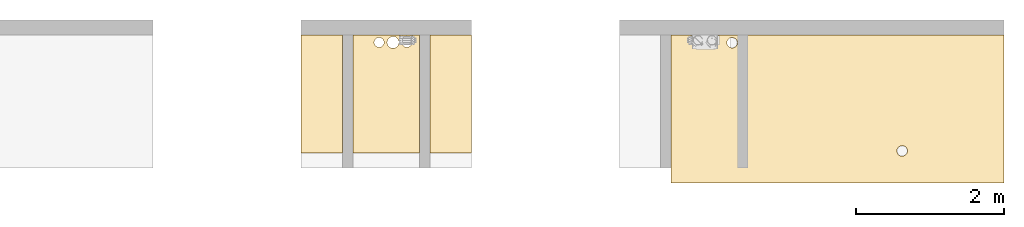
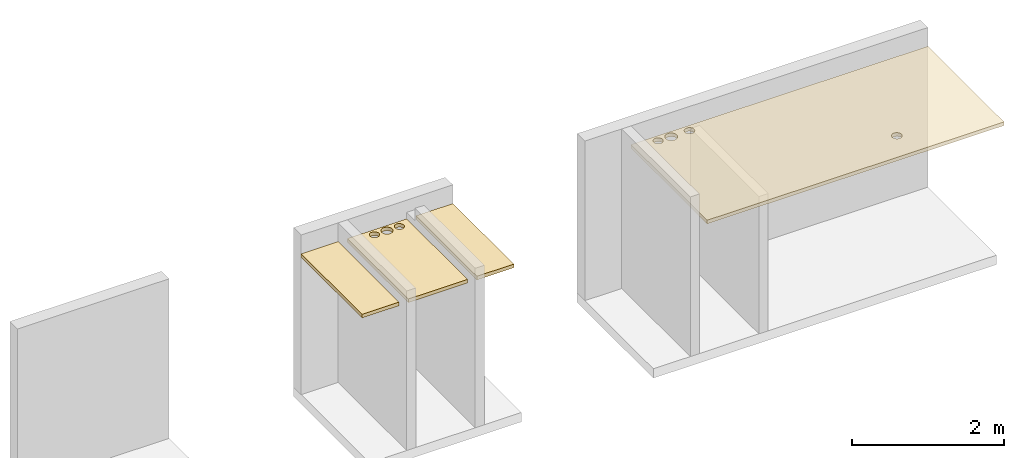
# One storey, part 3 of 3: 4 coverings.
"""IFC4 building model written with IfcOpenShell, lengths in millimetres."""

import ifcopenshell
import ifcopenshell.guid

model = None  # the IFC model being written
_history = None  # IfcOwnerHistory: only IFC2X3 demands one
_inside = {}  # id of a spatial element -> (the spatial element, [elements in it])
_under = {}  # id of a project, library or spatial element -> (it, [spatial elements below it])
_declared = {}  # id of a project -> (the project, [libraries it declares])
_typed = {}  # id of a type object -> (the type object, [elements of that type])
_made_of = {}  # id of a material, layer set ... -> (it, [elements and type objects made of it])


def new_model(schema):
    """Start an empty IFC model of exactly this schema.

    Asked for "IFC4X3", IfcOpenShell would pick the latest addendum, in which some entities
    have other attributes; the version numbers below select the first issue.
    IFC2X3 requires an IfcOwnerHistory on every rooted entity: one is made here for all.
    """
    global model, _history
    if schema == "IFC4X3":
        model = ifcopenshell.file(schema_version=(4, 3, 0, 0))
    else:
        model = ifcopenshell.file(schema=schema)
    _inside.clear()
    _under.clear()
    _declared.clear()
    _typed.clear()
    _made_of.clear()
    _history = None
    if model.schema == "IFC2X3":
        org = make("IfcOrganization", Name="unknown")
        user = make(
            "IfcPersonAndOrganization",
            ThePerson=make("IfcPerson", FamilyName="unknown"),
            TheOrganization=org,
        )
        app = make(
            "IfcApplication",
            ApplicationDeveloper=org,
            Version="unknown",
            ApplicationFullName="unknown",
            ApplicationIdentifier="unknown",
        )
        _history = make(
            "IfcOwnerHistory",
            OwningUser=user,
            OwningApplication=app,
            ChangeAction="ADDED",
            CreationDate=0,
        )
    return model


def make(cls, **values):
    """One entity of the class cls with the attributes given. An attribute that is None is left unset."""
    return model.create_entity(
        cls, **{name: value for name, value in values.items() if value is not None}
    )


def entity(cls, *values):
    """Any entity or typed value of the class cls, its attributes in the order of the schema. None: left unset."""
    e = model.create_entity(cls)
    for i, value in enumerate(values):
        if value is not None:
            e[i] = value
    return e


def rooted(cls, **values):
    """An entity with a GlobalId (a new one), such as an element, a storey or a relation."""
    return make(cls, GlobalId=ifcopenshell.guid.new(), OwnerHistory=_history, **values)


def si_unit(unit_type, name, prefix=None):
    """IfcSIUnit, for example si_unit("LENGTHUNIT", "METRE", prefix="MILLI")."""
    return make("IfcSIUnit", UnitType=unit_type, Prefix=prefix, Name=name)


def converted_unit(unit_type, name, factor, base, dimensions=None, offset=None):
    """IfcConversionBasedUnit, such as the inch: factor (a typed value) times the base unit."""
    return make(
        "IfcConversionBasedUnit"
        if offset is None
        else "IfcConversionBasedUnitWithOffset",
        ConversionOffset=offset,
        Dimensions=None
        if dimensions is None
        else entity("IfcDimensionalExponents", *dimensions),
        UnitType=unit_type,
        Name=name,
        ConversionFactor=make(
            "IfcMeasureWithUnit", ValueComponent=factor, UnitComponent=base
        ),
    )


def derived_unit(unit_type, elements):
    """IfcDerivedUnit: a product of units, each with its exponent."""
    return make(
        "IfcDerivedUnit",
        Elements=[
            make("IfcDerivedUnitElement", Unit=unit, Exponent=power)
            for unit, power in elements
        ],
        UnitType=unit_type,
    )


def assignment(units):
    """IfcUnitAssignment: the units of a project."""
    return None if units is None else make("IfcUnitAssignment", Units=units)


def point(xyz):
    """IfcCartesianPoint."""
    return None if xyz is None else make("IfcCartesianPoint", Coordinates=xyz)


def direction(xyz):
    """IfcDirection."""
    return None if xyz is None else make("IfcDirection", DirectionRatios=xyz)


def frame(location, z_axis=None, x_axis=None):
    """IfcAxis2Placement3D, a coordinate frame: its origin and axes. An axis left out is left unset."""
    return make(
        "IfcAxis2Placement3D",
        Location=point(location),
        Axis=direction(z_axis),
        RefDirection=direction(x_axis),
    )


def origin():
    """The frame at (0, 0, 0) with its axes left unset."""
    return frame((0.0, 0.0, 0.0))


def place(relative_to, where):
    """IfcLocalPlacement: puts the frame where relative to a parent placement (None: the world)."""
    return make(
        "IfcLocalPlacement", PlacementRelTo=relative_to, RelativePlacement=where
    )


def context(
    kind, dimensions, precision=None, world=None, true_north=None, identifier=None
):
    """IfcGeometricRepresentationContext, for example the 3D "Model" context."""
    return make(
        "IfcGeometricRepresentationContext",
        ContextIdentifier=identifier,
        ContextType=kind,
        CoordinateSpaceDimension=dimensions,
        Precision=precision,
        WorldCoordinateSystem=world,
        TrueNorth=true_north,
    )


def subcontext(parent, identifier, kind, view, scale=None):
    """IfcGeometricRepresentationSubContext, for example "Body" below "Model"."""
    return make(
        "IfcGeometricRepresentationSubContext",
        ContextIdentifier=identifier,
        ContextType=kind,
        ParentContext=parent,
        TargetScale=scale,
        TargetView=view,
    )


def project(units=None, contexts=None):
    """IfcProject with its units and contexts."""
    return rooted(
        "IfcProject",
        Name="project",
        RepresentationContexts=contexts,
        UnitsInContext=assignment(units),
    )


def spatial(cls, under=None, at=None, **own):
    """A site, building, storey or space (cls), placed at a placement, below another one or the project."""
    s = rooted(cls, ObjectPlacement=at, **own)
    if under is not None:
        _under.setdefault(under.id(), (under, []))[1].append(s)
    return s


def point_list(points):
    """IfcCartesianPointList2D or 3D."""
    cls = (
        "IfcCartesianPointList2D" if len(points[0]) == 2 else "IfcCartesianPointList3D"
    )
    return make(cls, CoordList=points)


def indexed_curve(points, segments=None, self_intersect=None):
    """IfcIndexedPolyCurve: lines and arcs through numbered points (the first is 1)."""
    return make(
        "IfcIndexedPolyCurve",
        Points=point_list(points),
        Segments=segments,
        SelfIntersect=self_intersect,
    )


def outline(outer, holes=None, kind="AREA"):
    """IfcArbitraryClosedProfileDef: a profile drawn as a closed curve; with holes, ...WithVoids."""
    if holes is None:
        return make("IfcArbitraryClosedProfileDef", ProfileType=kind, OuterCurve=outer)
    return make(
        "IfcArbitraryProfileDefWithVoids",
        ProfileType=kind,
        OuterCurve=outer,
        InnerCurves=holes,
    )


def extrude(swept, where, along, depth):
    """IfcExtrudedAreaSolid: the profile swept, set in the frame where, extruded along a direction by depth."""
    return make(
        "IfcExtrudedAreaSolid",
        SweptArea=swept,
        Position=where,
        ExtrudedDirection=direction(along),
        Depth=depth,
    )


def shape(context_of_items, identifier, shape_type, items):
    """IfcShapeRepresentation: the items that make up one representation, for example the "Body"."""
    return make(
        "IfcShapeRepresentation",
        ContextOfItems=context_of_items,
        RepresentationIdentifier=identifier,
        RepresentationType=shape_type,
        Items=items,
    )


def material(Name=None, Category=None):
    """IfcMaterial."""
    return make("IfcMaterial", Name=Name, Category=Category)


def layer(
    of_material, thickness, ventilated=None, Name=None, Category=None, Priority=None
):
    """IfcMaterialLayer: one layer of a wall or slab, of a material (None: an air gap)."""
    return make(
        "IfcMaterialLayer",
        Material=of_material,
        LayerThickness=thickness,
        IsVentilated=ventilated,
        Name=Name,
        Category=Category,
        Priority=Priority,
    )


def layer_set(layers, Name=None):
    """IfcMaterialLayerSet."""
    return make("IfcMaterialLayerSet", MaterialLayers=layers, LayerSetName=Name)


def made_of(thing, what):
    """Note that an element or type object is made of a material, layer set ...; save() writes the relation."""
    if what is not None:
        _made_of.setdefault(what.id(), (what, []))[1].append(thing)
    return thing


def type_object(cls, material=None, **own):
    """A type object (cls), such as IfcWallType, which elements share."""
    return made_of(rooted(cls, **own), material)


def element(
    cls,
    number,
    at=None,
    inside=None,
    cuts=None,
    type_object=None,
    material=None,
    context=None,
    identifier="Body",
    shape_type=None,
    held_by="IfcProductDefinitionShape",
    body=None,
    shapes=None,
    **own,
):
    """One element of the class cls, such as IfcWall. Its Tag is "e" and its number.

    at: its placement. inside: the storey or other place that contains it. cuts: it is an
    opening in that element (IfcRelVoidsElement). A single representation is given by context,
    identifier, shape_type and body (its items); several are given by shapes. held_by: the class
    of the entity that holds the representations. save() writes the other relations.
    """
    e = rooted(cls, Tag="e%d" % number, ObjectPlacement=at, **own)
    if body is not None:
        shapes = [shape(context, identifier, shape_type, body)]
    if shapes is not None:
        e.Representation = make(held_by, Representations=shapes)
    if inside is not None:
        _inside.setdefault(inside.id(), (inside, []))[1].append(e)
    if cuts is not None:
        rooted(
            "IfcRelVoidsElement", RelatingBuildingElement=cuts, RelatedOpeningElement=e
        )
    if type_object is not None:
        _typed.setdefault(type_object.id(), (type_object, []))[1].append(e)
    return made_of(e, material)


def aggregate(whole, parts):
    """IfcRelAggregates: a whole, such as a stair, and the parts it consists of."""
    return rooted("IfcRelAggregates", RelatingObject=whole, RelatedObjects=parts)


def save(model, path):
    """Write the relations noted so far, then the file.

    IfcRelAggregates (storeys below a building ...), IfcRelContainedInSpatialStructure (elements
    in a storey), IfcRelDefinesByType, IfcRelAssociatesMaterial and IfcRelDeclares: one each for
    every whole, place, type object, material and project.
    """
    for whole, parts in _under.values():
        aggregate(whole, parts)
    for where, things in _inside.values():
        rooted(
            "IfcRelContainedInSpatialStructure",
            RelatedElements=things,
            RelatingStructure=where,
        )
    for kind, things in _typed.values():
        rooted("IfcRelDefinesByType", RelatedObjects=things, RelatingType=kind)
    for what, things in _made_of.values():
        rooted("IfcRelAssociatesMaterial", RelatedObjects=things, RelatingMaterial=what)
    for by, libraries in _declared.values():
        rooted("IfcRelDeclares", RelatingContext=by, RelatedDefinitions=libraries)
    model.write(path)


model = new_model("IFC4")

# Units and contexts
model_context = context("Model", 3, precision=0.01, world=origin(), true_north=direction((6.12303176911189e-17, 1.0)))
body_context = subcontext(model_context, "Body", "Model", "MODEL_VIEW")
ifc_project = project(units=[si_unit("LENGTHUNIT", "METRE", prefix="MILLI"), si_unit("AREAUNIT", "SQUARE_METRE"), si_unit("VOLUMEUNIT", "CUBIC_METRE"), converted_unit("PLANEANGLEUNIT", "DEGREE", entity("IfcRatioMeasure", 0.0174532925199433), si_unit("PLANEANGLEUNIT", "RADIAN"), dimensions=[0, 0, 0, 0, 0, 0, 0]), si_unit("MASSUNIT", "GRAM", prefix="KILO"), derived_unit("MASSDENSITYUNIT", [(si_unit("MASSUNIT", "GRAM", prefix="KILO"), 1), (si_unit("LENGTHUNIT", "METRE"), -3)]), si_unit("TIMEUNIT", "SECOND"), si_unit("FREQUENCYUNIT", "HERTZ"), si_unit("THERMODYNAMICTEMPERATUREUNIT", "DEGREE_CELSIUS"), derived_unit("THERMALTRANSMITTANCEUNIT", [(si_unit("MASSUNIT", "GRAM", prefix="KILO"), 1), (si_unit("THERMODYNAMICTEMPERATUREUNIT", "KELVIN"), -1), (si_unit("TIMEUNIT", "SECOND"), -3)]), derived_unit("VOLUMETRICFLOWRATEUNIT", [(si_unit("LENGTHUNIT", "METRE"), 3), (si_unit("TIMEUNIT", "SECOND"), -1)]), si_unit("ELECTRICCURRENTUNIT", "AMPERE"), si_unit("ELECTRICVOLTAGEUNIT", "VOLT"), si_unit("POWERUNIT", "WATT"), si_unit("FORCEUNIT", "NEWTON", prefix="KILO"), si_unit("ILLUMINANCEUNIT", "LUX"), si_unit("LUMINOUSFLUXUNIT", "LUMEN"), si_unit("LUMINOUSINTENSITYUNIT", "CANDELA"), derived_unit("USERDEFINED", [(si_unit("MASSUNIT", "GRAM", prefix="KILO"), -1), (si_unit("LENGTHUNIT", "METRE"), -2), (si_unit("TIMEUNIT", "SECOND"), 3), (si_unit("LUMINOUSFLUXUNIT", "LUMEN"), 1)]), derived_unit("LINEARVELOCITYUNIT", [(si_unit("LENGTHUNIT", "METRE"), 1), (si_unit("TIMEUNIT", "SECOND"), -1)]), si_unit("PRESSUREUNIT", "PASCAL"), derived_unit("USERDEFINED", [(si_unit("LENGTHUNIT", "METRE"), -2), (si_unit("MASSUNIT", "GRAM", prefix="KILO"), 1), (si_unit("TIMEUNIT", "SECOND"), -2)])], contexts=[model_context])

# Site, building, storey
site_placement = place(None, origin())
site = spatial("IfcSite", under=ifc_project, at=site_placement, Name="Default", CompositionType="ELEMENT")
building_placement = place(site_placement, origin())
building = spatial("IfcBuilding", under=site, at=building_placement, CompositionType="ELEMENT")
storey_placement = place(building_placement, frame((0.0, 0.0, 113.901971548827)))
storey = spatial("IfcBuildingStorey", under=building, at=storey_placement, Name="Level 1", CompositionType="ELEMENT", Elevation=113.901971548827)

# Coverings
ifc_material_1 = material(Name="Metal Stud Layer", Category="Materials")
ifc_layer_1 = layer(ifc_material_1, 45.0, Name="Metal Stud Layer", Category="Materials")
ifc_material_2 = material(Name="Gypsum Wall Board", Category="Materials")
ifc_layer_2 = layer(ifc_material_2, 12.0, Name="Gypsum Wall Board", Category="Materials")
ifc_layer_set_1 = layer_set([ifc_layer_1, ifc_layer_2], Name="Compound Ceiling:Plain")
covering_type_1 = type_object("IfcCoveringType", Name="Compound Ceiling:Plain", PredefinedType="CEILING")
covering_1_placement = place(storey_placement, origin())
element("IfcCovering", 1, at=covering_1_placement, inside=storey, type_object=covering_type_1, material=ifc_layer_set_1, Name="Compound Ceiling:Plain", ObjectType="Compound Ceiling:Plain", PredefinedType="CEILING", context=body_context, shape_type="SweptSolid", body=[
    extrude(outline(indexed_curve([(-2250.0, -1000.0), (2250.0, -1000.0), (2250.0, 1000.0), (-2250.0, 1000.0), (-2250.0, -1000.0)], self_intersect=False), holes=[indexed_curve([(1829.99999999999, -897.322167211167), (1833.27921340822, -876.618028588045), (1842.79586137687, -857.940555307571), (1857.61838809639, -843.118028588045), (1876.29586137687, -833.601380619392), (1896.99999999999, -830.322167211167), (1917.70413862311, -833.601380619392), (1936.38161190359, -843.118028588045), (1951.20413862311, -857.940555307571), (1960.72078659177, -876.618028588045), (1963.99999999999, -897.322167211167), (1960.72078659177, -918.026305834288), (1951.20413862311, -936.703779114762), (1936.38161190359, -951.526305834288), (1917.70413862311, -961.042953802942), (1896.99999999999, -964.322167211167), (1876.29586137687, -961.042953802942), (1857.6183880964, -951.526305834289), (1842.79586137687, -936.703779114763), (1833.27921340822, -918.026305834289), (1829.99999999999, -897.322167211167)], self_intersect=False), indexed_curve([(1617.99999999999, -892.322167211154), (1622.1601961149, -866.055722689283), (1634.23355547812, -842.360420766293), (1653.03825355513, -823.555722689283), (1676.73355547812, -811.482363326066), (1702.99999999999, -807.322167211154), (1729.26644452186, -811.482363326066), (1752.96174644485, -823.555722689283), (1771.76644452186, -842.360420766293), (1783.83980388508, -866.055722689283), (1787.99999999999, -892.322167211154), (1783.83980388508, -918.588611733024), (1771.76644452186, -942.283913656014), (1752.96174644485, -961.088611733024), (1729.26644452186, -973.161971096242), (1702.99999999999, -977.322167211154), (1676.73355547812, -973.161971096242), (1653.03825355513, -961.088611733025), (1634.23355547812, -942.283913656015), (1622.1601961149, -918.588611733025), (1617.99999999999, -892.322167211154)], self_intersect=False), indexed_curve([(1354.99999999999, -892.322167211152), (1358.42604385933, -870.690977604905), (1368.36881039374, -851.177199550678), (1383.85503233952, -835.690977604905), (1403.36881039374, -825.748211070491), (1424.99999999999, -822.322167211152), (1446.63118960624, -825.748211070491), (1466.14496766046, -835.690977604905), (1481.63118960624, -851.177199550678), (1491.57395614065, -870.690977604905), (1494.99999999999, -892.322167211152), (1491.57395614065, -913.953356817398), (1481.63118960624, -933.467134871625), (1466.14496766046, -948.953356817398), (1446.63118960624, -958.896123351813), (1424.99999999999, -962.322167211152), (1403.36881039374, -958.896123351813), (1383.85503233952, -948.953356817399), (1368.36881039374, -933.467134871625), (1358.42604385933, -913.953356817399), (1354.99999999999, -892.322167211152)], self_intersect=False), indexed_curve([(-944.999999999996, 570.000000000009), (-941.525012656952, 591.94020660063), (-931.440206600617, 611.732752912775), (-915.732752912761, 627.440206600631), (-895.940206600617, 637.525012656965), (-873.999999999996, 641.000000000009), (-852.059793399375, 637.525012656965), (-832.26724708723, 627.440206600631), (-816.559793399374, 611.732752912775), (-806.47498734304, 591.940206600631), (-802.999999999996, 570.00000000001), (-806.47498734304, 548.059793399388), (-816.559793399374, 528.267247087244), (-832.26724708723, 512.559793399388), (-852.059793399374, 502.474987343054), (-873.999999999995, 499.000000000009), (-895.940206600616, 502.474987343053), (-915.732752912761, 512.559793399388), (-931.440206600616, 528.267247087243), (-941.525012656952, 548.059793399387), (-944.999999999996, 570.000000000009)], self_intersect=False)]), frame((3965.11188853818, 2392.24351176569, 2200.0), z_axis=(0.0, 0.0, 1.0), x_axis=(-1.0, 0.0, 0.0)), (0.0, 0.0, 1.0), 57.0),
])
covering_type_2 = type_object("IfcCoveringType", Name="Compound Ceiling:Plain", PredefinedType="CEILING")
covering_2_placement = place(storey_placement, origin())
element("IfcCovering", 2, at=covering_2_placement, inside=storey, type_object=covering_type_2, material=ifc_layer_set_1, Name="Compound Ceiling:Plain", ObjectType="Compound Ceiling:Plain", PredefinedType="CEILING", context=body_context, shape_type="SweptSolid", body=[
    extrude(outline(indexed_curve([(-280.000000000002, -800.0), (280.000000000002, -800.0), (280.000000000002, 800.0), (-280.000000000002, 800.0), (-280.000000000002, -800.0)], self_intersect=False)), frame((-3004.88811146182, 2592.24351176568, 2200.0), z_axis=(0.0, 0.0, 1.0), x_axis=(-1.0, 0.0, 0.0)), (0.0, 0.0, 1.0), 57.0),
])
ifc_material_3 = material(Name="Glass, Clear Glazing", Category="Materials")
ifc_layer_3 = layer(ifc_material_3, 57.0, Name="Glass, Clear Glazing", Category="Materials")
ifc_layer_set_2 = layer_set([ifc_layer_3], Name="Compound Ceiling:Transparent")
covering_type_3 = type_object("IfcCoveringType", Name="Compound Ceiling:Transparent", PredefinedType="CEILING")
covering_3_placement = place(storey_placement, origin())
element("IfcCovering", 3, at=covering_3_placement, inside=storey, type_object=covering_type_3, material=ifc_layer_set_2, Name="Compound Ceiling:Transparent", ObjectType="Compound Ceiling:Transparent", PredefinedType="CEILING", context=body_context, shape_type="SweptSolid", body=[
    extrude(outline(indexed_curve([(-450.000000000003, -800.0), (450.000000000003, -800.0), (450.000000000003, 800.0), (-450.000000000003, 800.0), (-450.000000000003, -800.0)], self_intersect=False), holes=[indexed_curve([(-347.000000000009, -697.322167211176), (-343.720786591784, -676.618028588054), (-334.20413862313, -657.94055530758), (-319.381611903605, -643.118028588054), (-300.70413862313, -633.6013806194), (-280.000000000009, -630.322167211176), (-259.295861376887, -633.6013806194), (-240.618388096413, -643.118028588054), (-225.795861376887, -657.94055530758), (-216.279213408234, -676.618028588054), (-213.000000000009, -697.322167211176), (-216.279213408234, -718.026305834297), (-225.795861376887, -736.703779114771), (-240.618388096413, -751.526305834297), (-259.295861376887, -761.04295380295), (-280.000000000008, -764.322167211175), (-300.70413862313, -761.042953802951), (-319.381611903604, -751.526305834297), (-334.20413862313, -736.703779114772), (-343.720786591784, -718.026305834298), (-347.000000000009, -697.322167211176)], self_intersect=False), indexed_curve([(29.999999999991, -697.322167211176), (33.2792134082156, -676.618028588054), (42.7958613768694, -657.94055530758), (57.6183880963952, -643.118028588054), (76.2958613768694, -633.6013806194), (96.9999999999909, -630.322167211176), (117.704138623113, -633.6013806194), (136.381611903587, -643.118028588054), (151.204138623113, -657.94055530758), (160.720786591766, -676.618028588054), (163.999999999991, -697.322167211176), (160.720786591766, -718.026305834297), (151.204138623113, -736.703779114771), (136.381611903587, -751.526305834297), (117.704138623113, -761.04295380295), (96.9999999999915, -764.322167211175), (76.2958613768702, -761.042953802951), (57.6183880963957, -751.526305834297), (42.7958613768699, -736.703779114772), (33.2792134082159, -718.026305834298), (29.999999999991, -697.322167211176)], self_intersect=False), indexed_curve([(-172.000000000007, -697.322167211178), (-168.08452130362, -672.600807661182), (-156.721359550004, -650.29934702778), (-139.022820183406, -632.600807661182), (-116.721359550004, -621.237645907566), (-92.0000000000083, -617.322167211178), (-67.2786404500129, -621.237645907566), (-44.9771798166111, -632.600807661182), (-27.2786404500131, -650.29934702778), (-15.9154786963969, -672.600807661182), (-12.0000000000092, -697.322167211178), (-15.9154786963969, -722.043526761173), (-27.2786404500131, -744.344987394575), (-44.9771798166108, -762.043526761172), (-67.2786404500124, -773.406688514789), (-92.0000000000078, -777.322167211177), (-116.721359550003, -773.406688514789), (-139.022820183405, -762.043526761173), (-156.721359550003, -744.344987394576), (-168.08452130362, -722.043526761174), (-172.000000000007, -697.322167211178)], self_intersect=False)]), frame((-2134.88811146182, 2592.24351176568, 2200.0), z_axis=(0.0, 0.0, 1.0), x_axis=(-1.0, 0.0, 0.0)), (0.0, 0.0, 1.0), 57.0),
])
covering_type_4 = type_object("IfcCoveringType", Name="Compound Ceiling:Plain", PredefinedType="CEILING")
covering_4_placement = place(storey_placement, origin())
element("IfcCovering", 4, at=covering_4_placement, inside=storey, type_object=covering_type_4, material=ifc_layer_set_1, Name="Compound Ceiling:Plain", ObjectType="Compound Ceiling:Plain", PredefinedType="CEILING", context=body_context, shape_type="SweptSolid", body=[
    extrude(outline(indexed_curve([(-280.000000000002, -800.0), (280.000000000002, -800.0), (280.000000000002, 800.0), (-280.000000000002, 800.0), (-280.000000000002, -800.0)], self_intersect=False)), frame((-1264.88811146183, 2592.24351176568, 2200.0), z_axis=(0.0, 0.0, 1.0), x_axis=(-1.0, 0.0, 0.0)), (0.0, 0.0, 1.0), 57.0),
])

save(model, "model.ifc")
